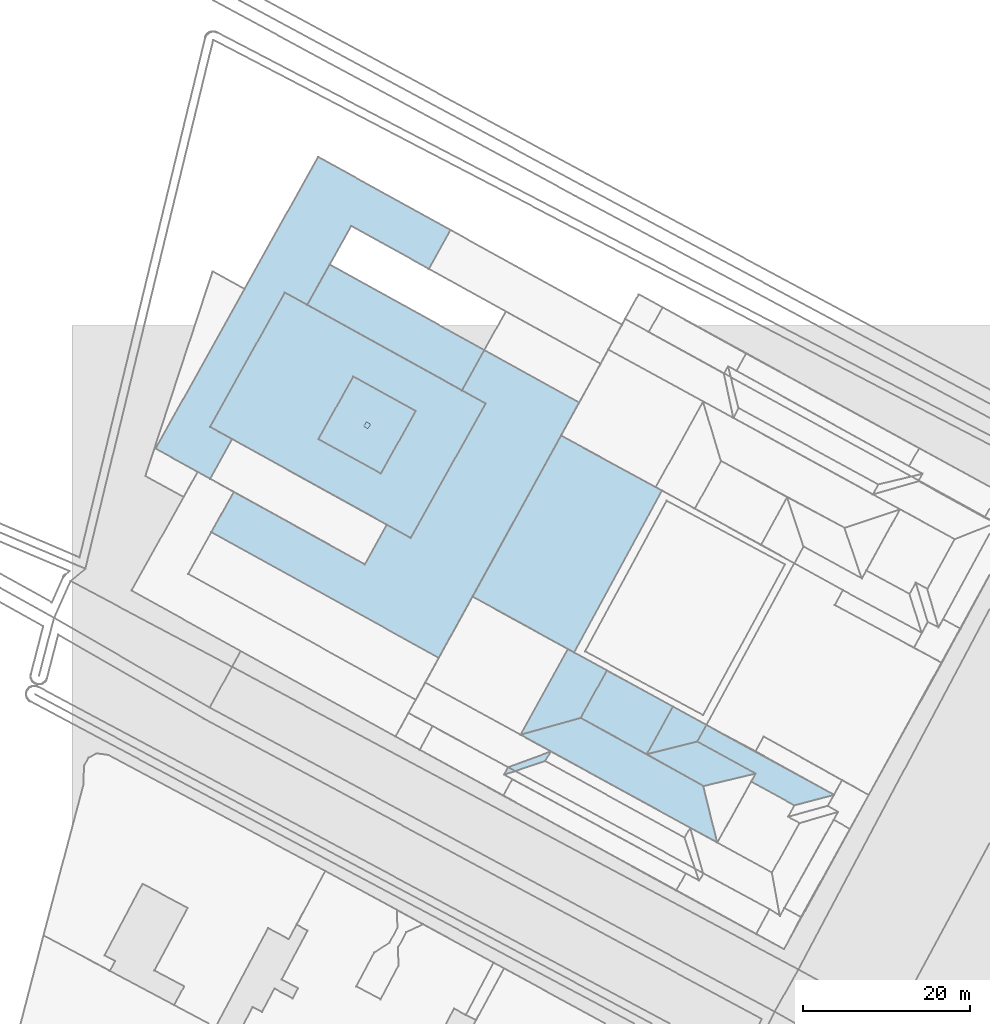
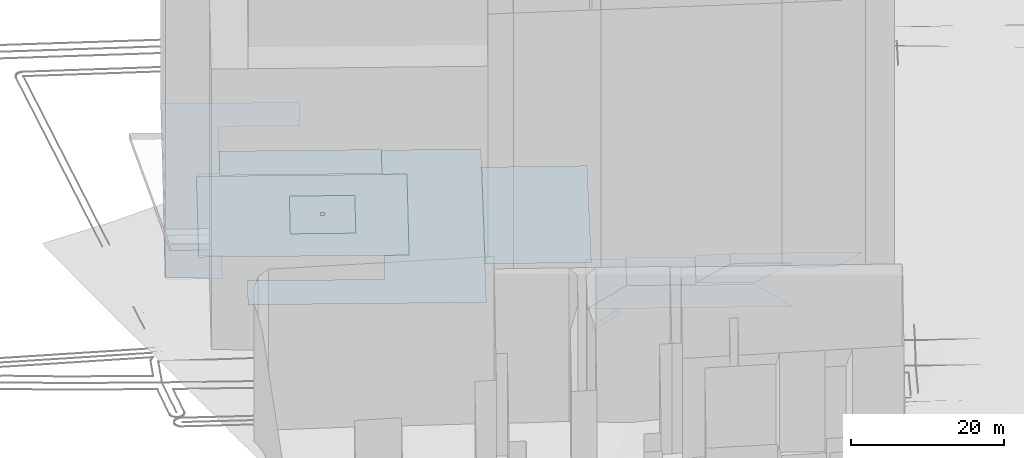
# Not in any storey, part 10 of 76: 14 footings.
"""IFC2X3 model written with IfcOpenShell, lengths in metres."""

import ifcopenshell
import ifcopenshell.guid

model = None  # the IFC model being written
_history = None  # IfcOwnerHistory: only IFC2X3 demands one
_inside = {}  # id of a spatial element -> (the spatial element, [elements in it])
_under = {}  # id of a project, library or spatial element -> (it, [spatial elements below it])
_declared = {}  # id of a project -> (the project, [libraries it declares])
_typed = {}  # id of a type object -> (the type object, [elements of that type])
_made_of = {}  # id of a material, layer set ... -> (it, [elements and type objects made of it])


def new_model(schema):
    """Start an empty IFC model of exactly this schema.

    Asked for "IFC4X3", IfcOpenShell would pick the latest addendum, in which some entities
    have other attributes; the version numbers below select the first issue.
    IFC2X3 requires an IfcOwnerHistory on every rooted entity: one is made here for all.
    """
    global model, _history
    if schema == "IFC4X3":
        model = ifcopenshell.file(schema_version=(4, 3, 0, 0))
    else:
        model = ifcopenshell.file(schema=schema)
    _inside.clear()
    _under.clear()
    _declared.clear()
    _typed.clear()
    _made_of.clear()
    _history = None
    if model.schema == "IFC2X3":
        org = make("IfcOrganization", Name="unknown")
        user = make(
            "IfcPersonAndOrganization",
            ThePerson=make("IfcPerson", FamilyName="unknown"),
            TheOrganization=org,
        )
        app = make(
            "IfcApplication",
            ApplicationDeveloper=org,
            Version="unknown",
            ApplicationFullName="unknown",
            ApplicationIdentifier="unknown",
        )
        _history = make(
            "IfcOwnerHistory",
            OwningUser=user,
            OwningApplication=app,
            ChangeAction="ADDED",
            CreationDate=0,
        )
    return model


def make(cls, **values):
    """One entity of the class cls with the attributes given. An attribute that is None is left unset."""
    return model.create_entity(
        cls, **{name: value for name, value in values.items() if value is not None}
    )


def rooted(cls, **values):
    """An entity with a GlobalId (a new one), such as an element, a storey or a relation."""
    return make(cls, GlobalId=ifcopenshell.guid.new(), OwnerHistory=_history, **values)


def si_unit(unit_type, name, prefix=None):
    """IfcSIUnit, for example si_unit("LENGTHUNIT", "METRE", prefix="MILLI")."""
    return make("IfcSIUnit", UnitType=unit_type, Prefix=prefix, Name=name)


def assignment(units):
    """IfcUnitAssignment: the units of a project."""
    return None if units is None else make("IfcUnitAssignment", Units=units)


def point(xyz):
    """IfcCartesianPoint."""
    return None if xyz is None else make("IfcCartesianPoint", Coordinates=xyz)


def direction(xyz):
    """IfcDirection."""
    return None if xyz is None else make("IfcDirection", DirectionRatios=xyz)


def frame(location, z_axis=None, x_axis=None):
    """IfcAxis2Placement3D, a coordinate frame: its origin and axes. An axis left out is left unset."""
    return make(
        "IfcAxis2Placement3D",
        Location=point(location),
        Axis=direction(z_axis),
        RefDirection=direction(x_axis),
    )


def origin_with_axes():
    """The frame at (0, 0, 0) with the z axis (0, 0, 1) and the x axis (1, 0, 0) written out."""
    return frame((0.0, 0.0, 0.0), z_axis=(0.0, 0.0, 1.0), x_axis=(1.0, 0.0, 0.0))


def place(relative_to, where):
    """IfcLocalPlacement: puts the frame where relative to a parent placement (None: the world)."""
    return make(
        "IfcLocalPlacement", PlacementRelTo=relative_to, RelativePlacement=where
    )


def context(
    kind, dimensions, precision=None, world=None, true_north=None, identifier=None
):
    """IfcGeometricRepresentationContext, for example the 3D "Model" context."""
    return make(
        "IfcGeometricRepresentationContext",
        ContextIdentifier=identifier,
        ContextType=kind,
        CoordinateSpaceDimension=dimensions,
        Precision=precision,
        WorldCoordinateSystem=world,
        TrueNorth=true_north,
    )


def subcontext(parent, identifier, kind, view, scale=None):
    """IfcGeometricRepresentationSubContext, for example "Body" below "Model"."""
    return make(
        "IfcGeometricRepresentationSubContext",
        ContextIdentifier=identifier,
        ContextType=kind,
        ParentContext=parent,
        TargetScale=scale,
        TargetView=view,
    )


def project(units=None, contexts=None):
    """IfcProject with its units and contexts."""
    return rooted(
        "IfcProject",
        Name="project",
        RepresentationContexts=contexts,
        UnitsInContext=assignment(units),
    )


def faces_of(points, faces, orient=None, outer=None):
    """IfcFace entities. A face is a list of loops; a loop is a list of indices into points, from 0.

    orient and outer hold one flag for each loop. By default every Orientation is true, the
    first loop of a face is its IfcFaceOuterBound and the others are IfcFaceBound.
    """
    made = []
    for i, loops in enumerate(faces):
        bounds = []
        for j, loop in enumerate(loops):
            is_outer = j == 0 if outer is None else outer[i][j]
            bounds.append(
                make(
                    "IfcFaceOuterBound" if is_outer else "IfcFaceBound",
                    Bound=make("IfcPolyLoop", Polygon=[points[k] for k in loop]),
                    Orientation=True if orient is None else orient[i][j],
                )
            )
        made.append(make("IfcFace", Bounds=bounds))
    return made


def faceted_brep(points, faces, orient=None, outer=None, voids=None):
    """IfcFacetedBrep: a solid bounded by flat faces; with voids (closed shells), ...WithVoids."""
    shared = [point(p) for p in points]
    hull = make("IfcClosedShell", CfsFaces=faces_of(shared, faces, orient, outer))
    if voids is None:
        return make("IfcFacetedBrep", Outer=hull)
    return make(
        "IfcFacetedBrepWithVoids",
        Outer=hull,
        Voids=[
            make(cls, CfsFaces=faces_of(shared, fs, o, b)) for cls, fs, o, b in voids
        ],
    )


def shape(context_of_items, identifier, shape_type, items):
    """IfcShapeRepresentation: the items that make up one representation, for example the "Body"."""
    return make(
        "IfcShapeRepresentation",
        ContextOfItems=context_of_items,
        RepresentationIdentifier=identifier,
        RepresentationType=shape_type,
        Items=items,
    )


def made_of(thing, what):
    """Note that an element or type object is made of a material, layer set ...; save() writes the relation."""
    if what is not None:
        _made_of.setdefault(what.id(), (what, []))[1].append(thing)
    return thing


def element(
    cls,
    number,
    at=None,
    inside=None,
    cuts=None,
    type_object=None,
    material=None,
    context=None,
    identifier="Body",
    shape_type=None,
    held_by="IfcProductDefinitionShape",
    body=None,
    shapes=None,
    **own,
):
    """One element of the class cls, such as IfcWall. Its Tag is "e" and its number.

    at: its placement. inside: the storey or other place that contains it. cuts: it is an
    opening in that element (IfcRelVoidsElement). A single representation is given by context,
    identifier, shape_type and body (its items); several are given by shapes. held_by: the class
    of the entity that holds the representations. save() writes the other relations.
    """
    e = rooted(cls, Tag="e%d" % number, ObjectPlacement=at, **own)
    if body is not None:
        shapes = [shape(context, identifier, shape_type, body)]
    if shapes is not None:
        e.Representation = make(held_by, Representations=shapes)
    if inside is not None:
        _inside.setdefault(inside.id(), (inside, []))[1].append(e)
    if cuts is not None:
        rooted(
            "IfcRelVoidsElement", RelatingBuildingElement=cuts, RelatedOpeningElement=e
        )
    if type_object is not None:
        _typed.setdefault(type_object.id(), (type_object, []))[1].append(e)
    return made_of(e, material)


def aggregate(whole, parts):
    """IfcRelAggregates: a whole, such as a stair, and the parts it consists of."""
    return rooted("IfcRelAggregates", RelatingObject=whole, RelatedObjects=parts)


def save(model, path):
    """Write the relations noted so far, then the file.

    IfcRelAggregates (storeys below a building ...), IfcRelContainedInSpatialStructure (elements
    in a storey), IfcRelDefinesByType, IfcRelAssociatesMaterial and IfcRelDeclares: one each for
    every whole, place, type object, material and project.
    """
    for whole, parts in _under.values():
        aggregate(whole, parts)
    for where, things in _inside.values():
        rooted(
            "IfcRelContainedInSpatialStructure",
            RelatedElements=things,
            RelatingStructure=where,
        )
    for kind, things in _typed.values():
        rooted("IfcRelDefinesByType", RelatedObjects=things, RelatingType=kind)
    for what, things in _made_of.values():
        rooted("IfcRelAssociatesMaterial", RelatedObjects=things, RelatingMaterial=what)
    for by, libraries in _declared.values():
        rooted("IfcRelDeclares", RelatingContext=by, RelatedDefinitions=libraries)
    model.write(path)


model = new_model("IFC2X3")

# Units and contexts
model_context = context("Model", 3, precision=1e-05, world=origin_with_axes())
body_context = subcontext(model_context, "Body", "Model", "MODEL_VIEW")
ifc_project = project(units=[si_unit("AREAUNIT", "SQUARE_METRE"), si_unit("LENGTHUNIT", "METRE")], contexts=[model_context])

# Footings
footing_1_placement = place(None, frame((75.1201709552, 329.5761447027, 23.8507407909), z_axis=(0.0, 0.0, 1.0), x_axis=(1.0, 0.0, 0.0)))
element("IfcFooting", 1, at=footing_1_placement, Name="Sol 0", PredefinedType="STRIP_FOOTING", context=body_context, shape_type="Brep", body=[
    faceted_brep([(7.0088017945, -3.8488115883, 0.0), (0.0, 0.0, 0.0), (1.0997322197, 1.9778684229, 0.0), (11.6537066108, -7.6695578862, 0.0), (6.4714030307, -4.8209481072, 0.0), (16.4083748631, -6.4041945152, 0.0)], [[[0, 1, 2]], [[3, 4, 0]], [[2, 5, 3]], [[3, 0, 2]]]),
])
footing_2_placement = place(None, frame((53.8808145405, 330.3842681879, 23.5017044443), z_axis=(0.0, 0.0, 1.0), x_axis=(1.0, 0.0, 0.0)))
element("IfcFooting", 2, at=footing_2_placement, Name="Sol 0", PredefinedType="STRIP_FOOTING", context=body_context, shape_type="Brep", body=[
    faceted_brep([(20.3973031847, -11.1652006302, 0.0), (0.0, 0.0, 0.0), (7.2275813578, 2.0268001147, 0.0), (21.976830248, -6.1619484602, 0.0), (23.6510455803, -12.9481890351, 0.0)], [[[0, 1, 2]], [[3, 4, 0]], [[0, 2, 3]]]),
])
footing_3_placement = place(None, frame((48.1254357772, 346.9708364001, 22.6869888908), z_axis=(0.0, 0.0, 1.0), x_axis=(1.0, 0.0, 0.0)))
element("IfcFooting", 3, at=footing_3_placement, Name="Sol 0", PredefinedType="STRIP_FOOTING", context=body_context, shape_type="Brep", body=[
    faceted_brep([(12.1994914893, -6.6973667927, 0.0), (0.0, 0.0, 0.0), (10.6309973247, 19.3414111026, 0.0), (22.753475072, 12.7319860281, 0.0)], [[[0, 1, 2]], [[2, 3, 0]]]),
])
footing_4_placement = place(None, frame((53.8808145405, 330.3842681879, 23.2090927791), z_axis=(0.0, 0.0, 1.0), x_axis=(1.0, 0.0, 0.0)))
element("IfcFooting", 4, at=footing_4_placement, Name="Sol 0", PredefinedType="STRIP_FOOTING", context=body_context, shape_type="Brep", body=[
    faceted_brep([(7.2275813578, 2.0268001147, 0.0), (0.0, 0.0, 0.0), (5.6964786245, 10.3024073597, 0.0), (10.3860090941, 7.7256178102, 0.0)], [[[0, 1, 2]], [[2, 3, 0]]]),
])
footing_5_placement = place(None, frame((69.0516677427, 328.0512876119, 23.6953649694), z_axis=(0.0, 0.0, 1.0), x_axis=(1.0, 0.0, 0.0)))
element("IfcFooting", 5, at=footing_5_placement, Name="Sol 0", PredefinedType="STRIP_FOOTING", context=body_context, shape_type="Brep", body=[
    faceted_brep([(6.0685032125, 1.5248570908, 0.0), (0.0, 0.0, 0.0), (3.1498546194, 5.7098238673, 0.0), (7.1682354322, 3.5027255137, 0.0)], [[[0, 1, 2]], [[2, 3, 0]]]),
])
footing_6_placement = place(None, frame((61.1083958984, 332.4110683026, 23.390927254), z_axis=(0.0, 0.0, 1.0), x_axis=(1.0, 0.0, 0.0)))
element("IfcFooting", 6, at=footing_6_placement, Name="Sol 0", PredefinedType="STRIP_FOOTING", context=body_context, shape_type="Brep", body=[
    faceted_brep([(7.9432718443, -4.3597806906, 0.0), (0.0, 0.0, 0.0), (3.1584277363, 5.6988176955, 0.0), (11.0931264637, 1.3500431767, 0.0)], [[[0, 1, 2]], [[2, 3, 0]]]),
])
footing_7_placement = place(None, frame((16.7688335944, 354.7226631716, 22.4076126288), z_axis=(0.0, 0.0, 1.0), x_axis=(1.0, 0.0, 0.0)))
element("IfcFooting", 7, at=footing_7_placement, Name="Sol 0", PredefinedType="STRIP_FOOTING", context=body_context, shape_type="Brep", body=[
    faceted_brep([(27.3056955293, -15.1041300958, 0.0), (0.0, 0.0, 0.0), (2.6874090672, 4.8273569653, 0.0), (30.0813661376, 17.0247000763, 0.0), (32.7770605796, 21.8632672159, 0.0), (44.1700510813, 15.5562215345, 0.0), (18.4215440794, -3.8607450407, 0.0), (21.0760840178, 0.8885216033, 0.0), (23.9392342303, -0.6991752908, 0.0), (32.9359432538, 15.4480094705, 0.0)], [[[0, 1, 2]], [[3, 4, 5]], [[6, 7, 8]], [[0, 2, 6]], [[9, 3, 5]], [[0, 6, 8]], [[9, 5, 0]], [[0, 8, 9]]]),
])
footing_8_placement = place(None, frame((28.2698359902, 382.0233366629, 22.5121474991), z_axis=(0.0, 0.0, 1.0), x_axis=(1.0, 0.0, 0.0)))
element("IfcFooting", 8, at=footing_8_placement, Name="Sol 0", PredefinedType="STRIP_FOOTING", context=body_context, shape_type="Brep", body=[
    faceted_brep([(18.5803637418, -10.275973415, 0.0), (0.0, 0.0, 0.0), (2.6958312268, 4.8274595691, 0.0), (21.2760581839, -5.4374062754, 0.0)], [[[0, 1, 2]], [[2, 3, 0]]]),
])
footing_9_placement = place(None, frame((10.068288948, 364.747963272, 22.7304030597), z_axis=(0.0, 0.0, 1.0), x_axis=(1.0, 0.0, 0.0)))
element("IfcFooting", 9, at=footing_9_placement, Name="Sol 0", PredefinedType="STRIP_FOOTING", context=body_context, shape_type="Brep", body=[
    faceted_brep([(9.196238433, 1.1392176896, 0.0), (6.5418195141, -3.6211429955, 0.0), (0.0, 0.0, 0.0), (23.4855455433, 26.7514080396, 0.0), (18.2015470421, 17.2753733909, 0.0), (15.5253815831, 18.7542222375, 0.0), (35.4104872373, 26.245889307, 0.0), (32.8138870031, 21.5972119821, 0.0), (6.5370782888, 2.6071649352, 0.0), (19.514901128, 35.0320145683, 0.0)], [[[0, 1, 2]], [[3, 4, 5]], [[6, 7, 3]], [[8, 0, 2]], [[9, 6, 3]], [[8, 2, 9]], [[9, 3, 5]], [[5, 8, 9]]]),
])
footing_10_placement = place(None, frame((16.6053672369, 367.3551282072, 22.4076126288), z_axis=(0.0, 0.0, 1.0), x_axis=(1.0, 0.0, 0.0)))
element("IfcFooting", 10, at=footing_10_placement, Name="Sol 0", PredefinedType="STRIP_FOOTING", context=body_context, shape_type="Brep", body=[
    faceted_brep([(24.1027005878, -13.3316403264, 0.0), (0.0, 0.0, 0.0), (8.9883032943, 16.1470573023, 0.0), (33.0994096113, 2.8155444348, 0.0)], [[[0, 1, 2]], [[2, 3, 0]]]),
])
footing_11_placement = place(None, frame((35.0654153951, 367.4472321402, 22.5801140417), z_axis=(0.0, 0.0, 1.0), x_axis=(1.0, 0.0, 0.0)))
element("IfcFooting", 11, at=footing_11_placement, Name="Sol 0", PredefinedType="STRIP_FOOTING", context=body_context, shape_type="Brep", body=[
    faceted_brep([(0.4927502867, -0.2718373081, 0.0), (0.0, 0.0, 0.0), (0.3059728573, 0.5475615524, 0.0), (0.7987231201, 0.2757242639, 0.0)], [[[0, 1, 2]], [[2, 3, 0]]]),
])
footing_12_placement = place(None, frame((29.6218946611, 365.8963536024, 22.4832836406), z_axis=(0.0, 0.0, 1.0), x_axis=(1.0, 0.0, 0.0)))
element("IfcFooting", 12, at=footing_12_placement, Name="Sol 0", PredefinedType="STRIP_FOOTING", context=body_context, shape_type="Brep", body=[
    faceted_brep([(7.5017517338, -4.1428926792, 0.0), (0.0, 0.0, 0.0), (4.192455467, 7.5204723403, 0.0), (11.6857620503, 3.3774859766, 0.0)], [[[0, 1, 2]], [[2, 3, 0]]]),
])
footing_13_placement = place(None, frame((69.0516677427, 328.0512876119, 23.794695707), z_axis=(0.0, 0.0, 1.0), x_axis=(1.0, 0.0, 0.0)))
element("IfcFooting", 13, at=footing_13_placement, Name="Sol 0", PredefinedType="STRIP_FOOTING", context=body_context, shape_type="Brep", body=[
    faceted_brep([(6.8059770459, -3.8289678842, 0.0), (0.0, 0.0, 0.0), (6.0685032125, 1.5248570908, 0.0), (13.077305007, -2.3239544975, 0.0)], [[[0, 1, 2]], [[2, 3, 0]]]),
])
footing_14_placement = place(None, frame((51.9190164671, 325.5875262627, 23.5481954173), z_axis=(0.0, 0.0, 1.0), x_axis=(1.0, 0.0, 0.0)))
element("IfcFooting", 14, at=footing_14_placement, Name="Sol 0", PredefinedType="STRIP_FOOTING", context=body_context, shape_type="Brep", body=[
    faceted_brep([(4.9275340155, 1.6448242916, 0.0), (0.0, 0.0, 0.0), (0.4875344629, 0.9049419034, 0.0), (5.6147975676, 2.7963347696, 0.0)], [[[0, 1, 2]], [[2, 3, 0]]]),
])

save(model, "model.ifc")
